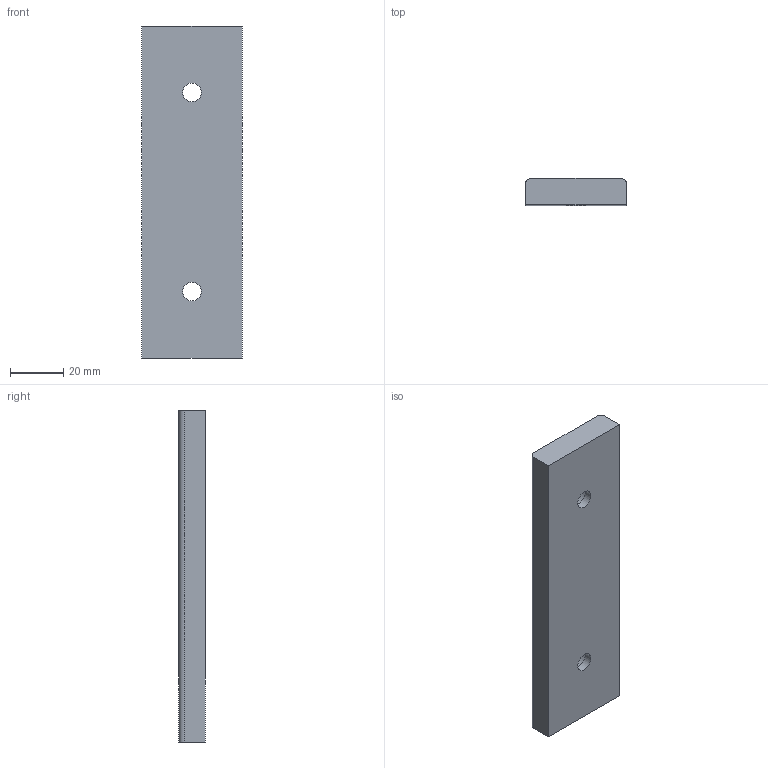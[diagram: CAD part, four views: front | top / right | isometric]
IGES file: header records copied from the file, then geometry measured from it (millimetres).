
Start section: Data from Parasolid IGES Translator 20.0.26, Copyright(c) 2006 Siemens P LM Software. All Rights Reserved.
Global section: file name: G220-01-038-125.igs; native system: By Siemens PLM Incorporated; preprocessor: XPlus GENERIC/IGES 20.0.26; author: Noname; organization: Noname; date: 20190708.082144; units: millimetre
Bounding box: 38 x 10 x 125 mm (x, y, z)
Surface area: 13003.8 mm2 (no closed solid volume)
Topology: 0 solids, 0 shells, 14 faces, 60 edges, 55 vertices
Faces by surface type: extrusion 8, revolution 6
